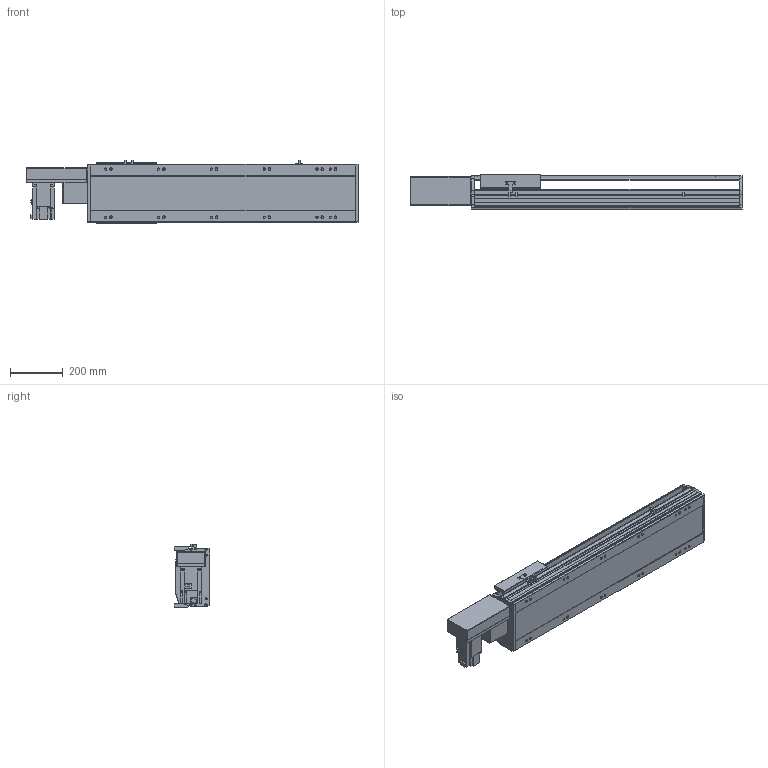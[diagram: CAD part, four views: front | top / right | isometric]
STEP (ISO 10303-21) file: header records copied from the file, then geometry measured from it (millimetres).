
FILE_DESCRIPTION(/* description */ ('STEP AP214'),/* implementation_level */ '2;1');
FILE_NAME(/* name */ 'PBS220-P40-S650-R-T75-C1-N(0)',/* time_stamp */ '2022-06-11T10:00:11+02:00',/* author */ ('License CC BY-ND 4.0'),/* organization */ ('CADENAS'),/* preprocessor_version */ 'ST-DEVELOPER v18.102',/* originating_system */ 'PARTsolutions',/* authorisation */ ' ');
FILE_SCHEMA (('AUTOMOTIVE_DESIGN {1 0 10303 214 3 1 1}'));
Length unit declared in the file: millimetre
Products named in the file (7): PBS220-P40-S650-R-T75-C1-N(0); PBS220_sensor; PBS220_plant; PBS220_sliser; T75-p1; PBS220T-R_motors; PBS220-S650()_body
Assembly tree (8 placements, depth 2):
  PBS220-P40-S650-R-T75-C1-N(0)
    PBS220_sensor  x3
    PBS220_plant
    PBS220_sliser
    T75-p1
    PBS220T-R_motors
    PBS220-S650()_body
Bounding box: 1256 x 134 x 238.5 mm (x, y, z)
Volume: 16738907 mm3; surface area: 1700720.9 mm2
Topology: 8 solids, 8 shells, 890 faces, 2340 edges, 1522 vertices
Faces by surface type: plane 590, cylinder 264, cone 36
Full cylindrical faces by diameter (mm): 2.013 x4, 4.5 x14, 4.917 x4, 6 x7, 6.647 x8, 8 x10, 8.376 x12, 8.5 x12, 10 x6, 14 x12, 38 x2, 40 x1, 70 x1
Entity records: 25005 total; most frequent: CARTESIAN_POINT 4360, DIRECTION 4347, ORIENTED_EDGE 4034, EDGE_CURVE 2017, AXIS2_PLACEMENT_3D 1503, VERTEX_POINT 1384, LINE 1341, VECTOR 1341
